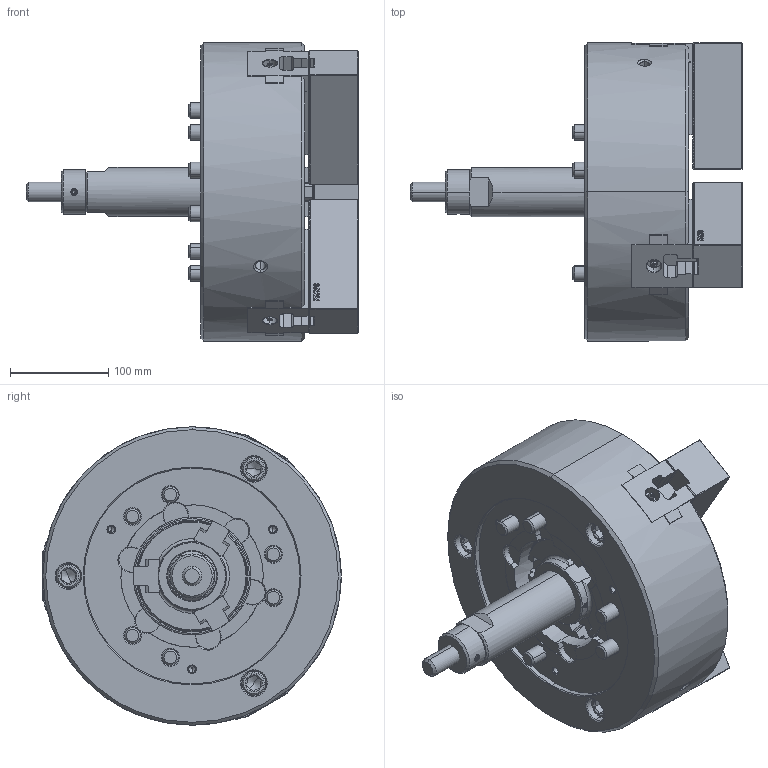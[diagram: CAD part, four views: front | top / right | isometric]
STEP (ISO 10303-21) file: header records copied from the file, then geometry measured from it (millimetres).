
FILE_DESCRIPTION (( 'STEP AP214' ), '1' );
FILE_NAME ('DT1_N-12_OUTSIDE_VIEW_HCL.STEP', '2026-03-12T00:49:35', ( '' ), ( '' ), 'SwSTEP 2.0', 'SolidWorks 2022', '' );
FILE_SCHEMA (( 'AUTOMOTIVE_DESIGN' ));
Length unit declared in the file: millimetre
Products named in the file (11): DT1_N-12_M5x12^DT1_N-12; DT1_N-12_M16x100^DT1_N-12; DT1_N-12_SOFTJAW^DT1_N-12; DT1_N-12_TNUT^DT1_N-12; DT1_N-12_M14x45^DT1_N-12; DT1_N-12_DRAWSCREW^DT1_N-12; DT1_N-12_COVER^DT1_N-12; DT1_N-12_BASE^DT1_N-12; Copy of 61P312753^DT1_N-12; DT1_N-12_DN^DT1_N-12; DT1_N-12_OUTSIDE_VIEW_HCL
Assembly tree (26 placements, depth 2):
  DT1_N-12_OUTSIDE_VIEW_HCL
    DT1_N-12_SOFTJAW^DT1_N-12  x3
    DT1_N-12_TNUT^DT1_N-12  x3
    DT1_N-12_COVER^DT1_N-12
    DT1_N-12_DRAWSCREW^DT1_N-12
    Copy of 61P312753^DT1_N-12
    DT1_N-12_DN^DT1_N-12
    DT1_N-12_BASE^DT1_N-12
    DT1_N-12_M5x12^DT1_N-12  x3
    DT1_N-12_M14x45^DT1_N-12  x6
    DT1_N-12_M16x100^DT1_N-12  x6
Bounding box: 338.2 x 304.1 x 304 mm (x, y, z)
Volume: 8193583.1 mm3; surface area: 686854.9 mm2
Topology: 26 solids, 32 shells, 5143 faces, 14556 edges, 9540 vertices
Faces by surface type: plane 3728, cylinder 691, cone 434, bspline 225, torus 59, sphere 6
Entity records: 120648 total; most frequent: CARTESIAN_POINT 32186, ORIENTED_EDGE 19824, DIRECTION 16127, EDGE_CURVE 9912, LINE 7431, VECTOR 7431, VERTEX_POINT 6516, AXIS2_PLACEMENT_3D 4348
